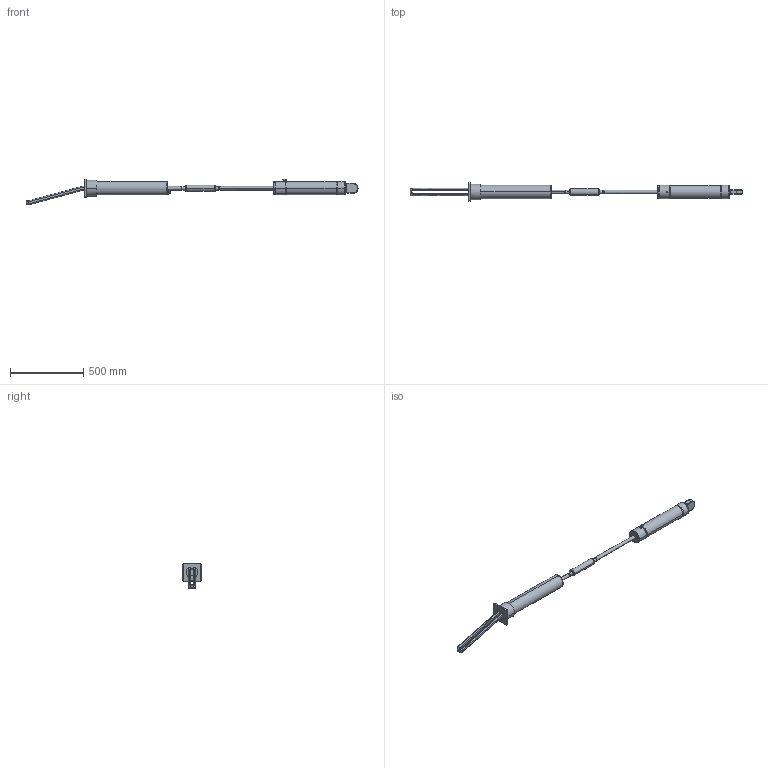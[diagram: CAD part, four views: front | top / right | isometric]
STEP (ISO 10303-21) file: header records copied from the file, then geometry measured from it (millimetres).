
FILE_DESCRIPTION (( 'STEP AP203' ), '1' );
FILE_NAME ('PT_070_S_0300.STEP', '2018-06-04T13:16:07', ( 'utente' ), ( 'Hewlett-Packard Company' ), 'SwSTEP 2.0', 'SolidWorks 2015', '' );
FILE_SCHEMA (( 'CONFIG_CONTROL_DESIGN' ));
Length unit declared in the file: millimetre
Products named in the file (1): PT_070_S_0300
Bounding box: 2273.7 x 125 x 177.36 mm (x, y, z)
Volume: 8128522.3 mm3; surface area: 494957.3 mm2
Topology: 1 solids, 1 shells, 273 faces, 646 edges, 390 vertices
Faces by surface type: plane 97, cylinder 80, cone 51, torus 29, bspline 16
Entity records: 8695 total; most frequent: CARTESIAN_POINT 2540, ORIENTED_EDGE 1288, DIRECTION 1269, EDGE_CURVE 644, AXIS2_PLACEMENT_3D 499, VERTEX_POINT 390, EDGE_LOOP 292, ADVANCED_FACE 273
